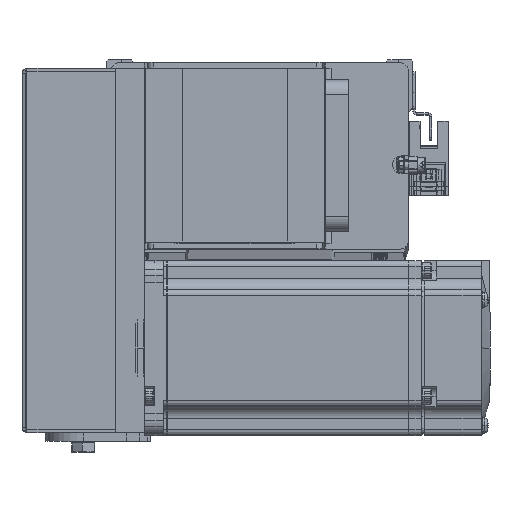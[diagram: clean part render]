
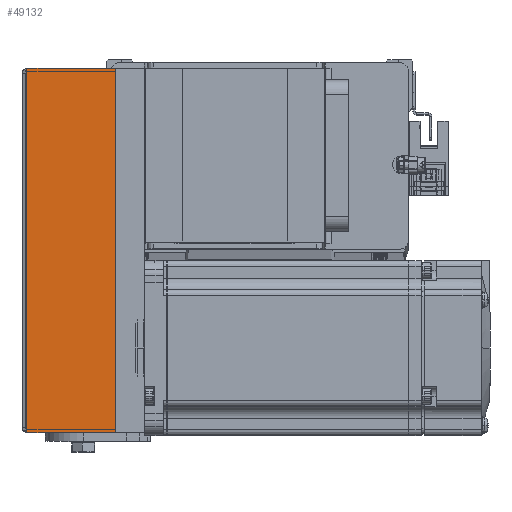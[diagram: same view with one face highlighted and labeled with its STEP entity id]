
A CAD part, top view. The second image highlights one B-rep face of the part: STEP entity #49132.
In plain terms, the highlighted planar face has unit normal (0, 0, 1) as drawn and (0, 0, -1) by its records, which use the part's own axes.
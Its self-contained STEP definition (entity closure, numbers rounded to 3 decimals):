
#2547 = CARTESIAN_POINT ( 'NONE',  ( 0., -30.8, -31. ) ) ;
#6170 = EDGE_CURVE ( 'NONE', #29639, #28199, #15904, .T. ) ;
#7695 = ORIENTED_EDGE ( 'NONE', *, *, #43918, .T. ) ;
#8409 = VECTOR ( 'NONE', #27277, 1000. ) ;
#9356 = ORIENTED_EDGE ( 'NONE', *, *, #6170, .F. ) ;
#12923 = DIRECTION ( 'NONE',  ( 0., 1., 0. ) ) ;
#14025 = VERTEX_POINT ( 'NONE', #25039 ) ;
#14204 = ORIENTED_EDGE ( 'NONE', *, *, #18250, .F. ) ;
#15681 = DIRECTION ( 'NONE',  ( 1., 0., 0. ) ) ;
#15904 = LINE ( 'NONE', #39231, #30813 ) ;
#16658 = CARTESIAN_POINT ( 'NONE',  ( -62.5, -30.3, -31. ) ) ;
#17988 = ORIENTED_EDGE ( 'NONE', *, *, #44055, .T. ) ;
#18250 = EDGE_CURVE ( 'NONE', #14025, #29639, #35325, .T. ) ;
#18900 = CARTESIAN_POINT ( 'NONE',  ( 62.5, -30.3, -31. ) ) ;
#22455 = PLANE ( 'NONE',  #24724 ) ;
#24724 = AXIS2_PLACEMENT_3D ( 'NONE', #2547, #27444, #47264 ) ;
#25039 = CARTESIAN_POINT ( 'NONE',  ( -62.5, -30.3, -31. ) ) ;
#26121 = EDGE_LOOP ( 'NONE', ( #14204, #17988, #7695, #9356 ) ) ;
#27277 = DIRECTION ( 'NONE',  ( 1., 0., 0. ) ) ;
#27444 = DIRECTION ( 'NONE',  ( 0., 0., 1. ) ) ;
#28199 = VERTEX_POINT ( 'NONE', #50990 ) ;
#29639 = VERTEX_POINT ( 'NONE', #51267 ) ;
#30813 = VECTOR ( 'NONE', #48158, 1000. ) ;
#33428 = VERTEX_POINT ( 'NONE', #36296 ) ;
#34454 = CARTESIAN_POINT ( 'NONE',  ( 0., 0., -31. ) ) ;
#35325 = LINE ( 'NONE', #18900, #49441 ) ;
#36296 = CARTESIAN_POINT ( 'NONE',  ( -62.5, 0., -31. ) ) ;
#39231 = CARTESIAN_POINT ( 'NONE',  ( 62.5, -30.3, -31. ) ) ;
#39616 = VECTOR ( 'NONE', #12923, 1000. ) ;
#43918 = EDGE_CURVE ( 'NONE', #33428, #28199, #46844, .T. ) ;
#44055 = EDGE_CURVE ( 'NONE', #14025, #33428, #44950, .T. ) ;
#44950 = LINE ( 'NONE', #16658, #39616 ) ;
#46748 = FACE_OUTER_BOUND ( 'NONE', #26121, .T. ) ;
#46844 = LINE ( 'NONE', #34454, #8409 ) ;
#47264 = DIRECTION ( 'NONE',  ( 0., 1., 0. ) ) ;
#48158 = DIRECTION ( 'NONE',  ( 0., 1., 0. ) ) ;
#49132 = ADVANCED_FACE ( 'NONE', ( #46748 ), #22455, .F. ) ;
#49441 = VECTOR ( 'NONE', #15681, 1000. ) ;
#50990 = CARTESIAN_POINT ( 'NONE',  ( 62.5, 0., -31. ) ) ;
#51267 = CARTESIAN_POINT ( 'NONE',  ( 62.5, -30.3, -31. ) ) ;
